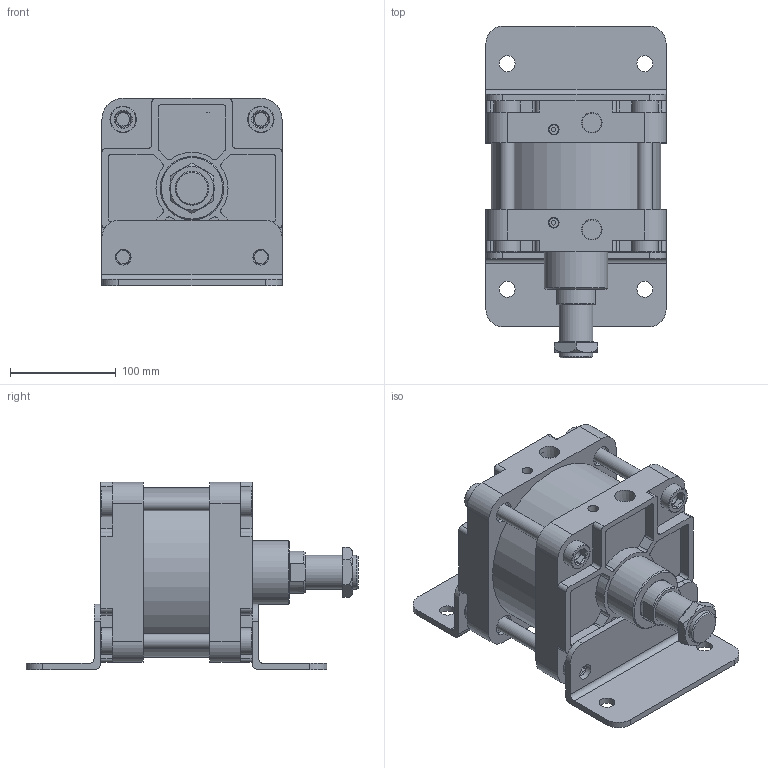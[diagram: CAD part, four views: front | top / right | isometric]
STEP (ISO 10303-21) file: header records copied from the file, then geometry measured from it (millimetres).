
FILE_DESCRIPTION(/* description */ ('Unknown'),/* implementation_level */ '2;1');
FILE_NAME(/* name */ 'WA150-0-LB',/* time_stamp */ '2026-07-17T17:00:50+08:00',/* author */ ('Unknown'),/* organization */ ('Unknown'),/* preprocessor_version */ 'ST-DEVELOPER v16.7',/* originating_system */ 'DEX',/* authorisation */ $);
FILE_SCHEMA (('CONFIG_CONTROL_DESIGN'));
Length unit declared in the file: millimetre
Products named in the file (8): WA150-0-LB; WA150_前0; WA150_ｫ碣ｺ`M; WA150_ｾTｰ.YM; WA150_､ﾟｶbｬ｡; M32-2.0P-10_螺; WA150_LB; WA150_T碪墮姊濈祫
Assembly tree (11 placements, depth 2):
  WA150-0-LB
    WA150_前0
    WA150_ｫ碣ｺ`M
    WA150_ｾTｰ.YM
    WA150_､ﾟｶbｬ｡
    M32-2.0P-10_螺
    WA150_LB  x2
    WA150_T碪墮姊濈祫  x4
Bounding box: 170 x 313.5 x 177 mm (x, y, z)
Volume: 3545850.3 mm3; surface area: 498672.8 mm2
Topology: 11 solids, 11 shells, 425 faces, 1047 edges, 697 vertices
Faces by surface type: plane 235, cylinder 159, cone 23, torus 8
Full cylindrical faces by diameter (mm): 9 x2, 10 x2, 12.5 x8, 14 x4, 15 x8, 20 x16, 25 x8, 30 x1, 32 x1, 40 x2, 41 x1, 60 x1, 149.5 x1, 150 x3, 160 x1
Entity records: 11286 total; most frequent: CARTESIAN_POINT 1690, DIRECTION 1624, ORIENTED_EDGE 1454, EDGE_CURVE 727, AXIS2_PLACEMENT_3D 605, VERTEX_POINT 507, LINE 414, VECTOR 414
